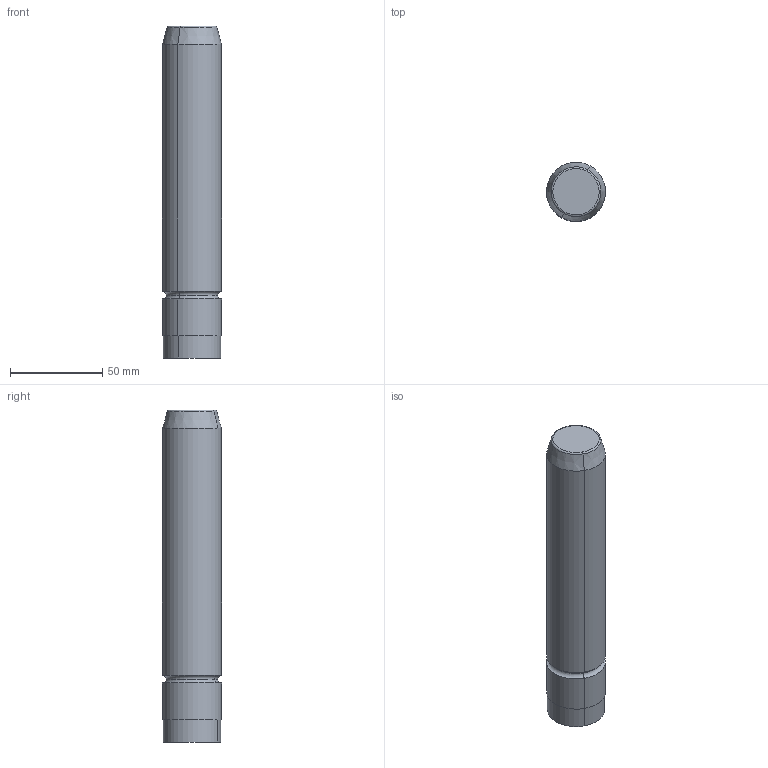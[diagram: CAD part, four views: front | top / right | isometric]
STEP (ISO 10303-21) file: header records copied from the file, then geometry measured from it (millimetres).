
FILE_DESCRIPTION(('CATIA V5 STEP Exchange'),'2;1');
FILE_NAME('C:\Users\Utente\Desktop\IO LAVORO\3D X SITO CF\X SITO\M104\M104-32x180.stp','2020-12-26T21:33:39+00:00',('none'),('none'),'CATIA Version 5 Release 20 GA (IN-10)','CATIA V5 STEP AP203','none');
FILE_SCHEMA(('CONFIG_CONTROL_DESIGN'));
Length unit declared in the file: millimetre
Products named in the file (1): M104-32x180
Bounding box: 31.99 x 31.99 x 180 mm (x, y, z)
Volume: 142232.2 mm3; surface area: 19534.3 mm2
Topology: 1 solids, 1 shells, 17 faces, 32 edges, 18 vertices
Faces by surface type: cylinder 6, torus 6, plane 3, cone 2
Entity records: 438 total; most frequent: CARTESIAN_POINT 66, ORIENTED_EDGE 64, DIRECTION 62, AXIS2_PLACEMENT_3D 40, EDGE_CURVE 32, CIRCLE 24, EDGE_LOOP 18, VERTEX_POINT 18
